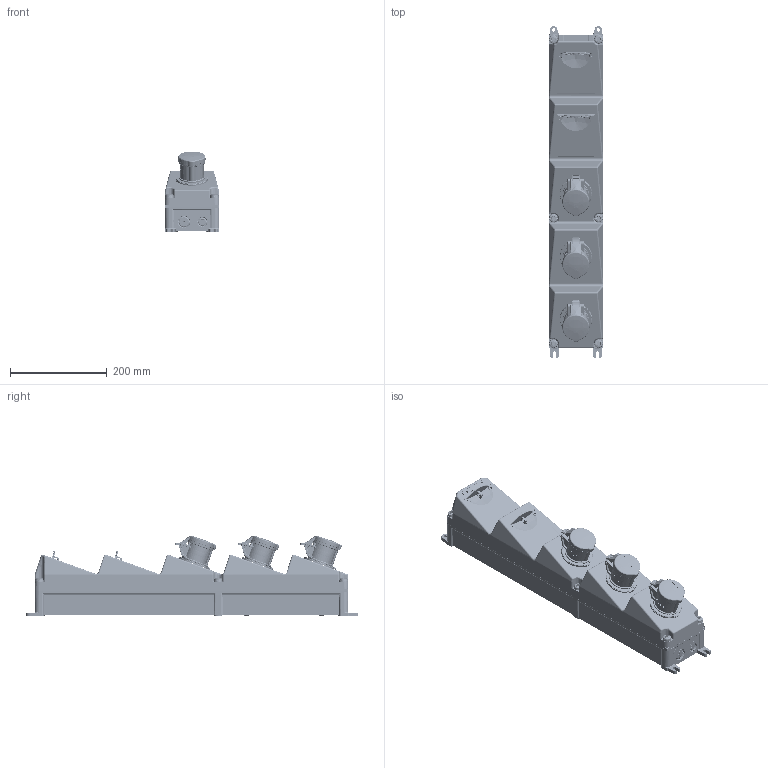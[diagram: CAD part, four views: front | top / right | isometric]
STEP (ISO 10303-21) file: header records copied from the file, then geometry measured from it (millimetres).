
FILE_DESCRIPTION((''),'2;1');
FILE_NAME('960019-1_ASM_1_ASM','2017-11-29T',('kremer'),('MENNEKES'),'PRO/ENGINEER BY PARAMETRIC TECHNOLOGY CORPORATION, 2015440','PRO/ENGINEER BY PARAMETRIC TECHNOLOGY CORPORATION, 2015440','');
FILE_SCHEMA(('AUTOMOTIVE_DESIGN { 1 0 10303 214 1 1 1 1 }'));
Products named in the file (6): S_SW_O_GRAU_AF0_1; FI_2POL_2TE_1; LS_1POL_1TE_1; S_FEN4_44_GRAU_1; RAPIDO_16_3_44_61_BLAU_1; 960019-1_ASM_1_ASM
Assembly tree (10 placements, depth 2):
  960019-1_ASM_1_ASM
    S_SW_O_GRAU_AF0_1
    FI_2POL_2TE_1
    LS_1POL_1TE_1  x3
    S_FEN4_44_GRAU_1  x2
    RAPIDO_16_3_44_61_BLAU_1  x3
Bounding box: 113.06 x 688.04 x 167.64 mm (x, y, z)
Volume: 7967523.1 mm3; surface area: 639250 mm2
Topology: 10 solids, 10 shells, 8473 faces, 23121 edges, 14707 vertices
Faces by surface type: plane 3679, cylinder 2536, bspline 938, torus 822, cone 222, sphere 175, extrusion 101
Entity records: 308696 total; most frequent: CARTESIAN_POINT 87805, ORIENTED_EDGE 32404, DIRECTION 27940, PRESENTATION_STYLE_ASSIGNMENT 17305, EDGE_CURVE 16202, STYLED_ITEM 14326, CURVE_STYLE 13242, VERTEX_POINT 10258
